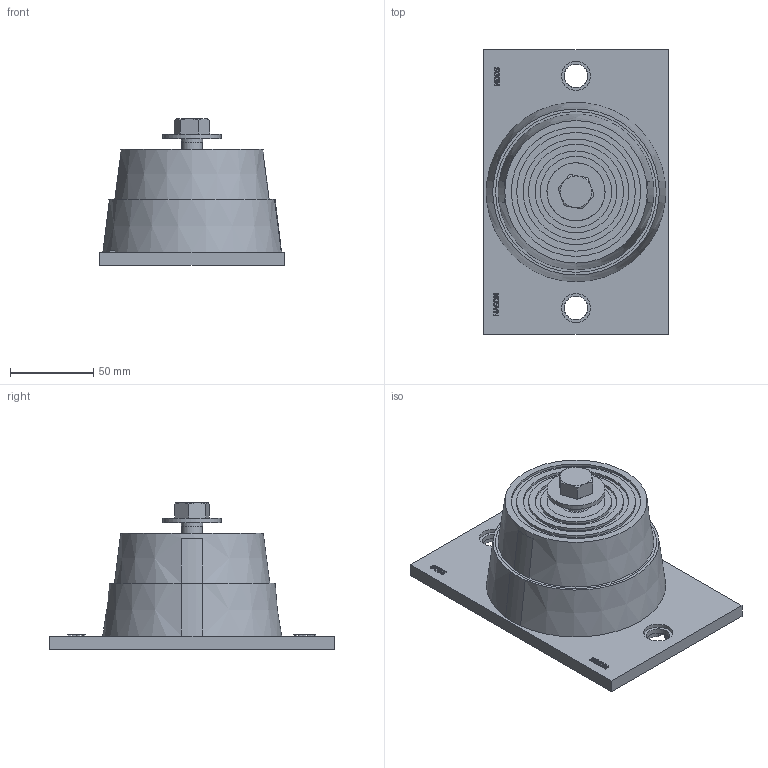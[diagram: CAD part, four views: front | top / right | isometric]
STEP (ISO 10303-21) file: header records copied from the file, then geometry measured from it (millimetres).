
FILE_DESCRIPTION((''),'2;1');
FILE_NAME('C:\2012_Work\Designs\ND\ND-DS\A-26350-1 ND-DS_YELLOW.stp','2013-09-11T11:13:39',('KShiels'),(''),'Autodesk Inventor 2012','Autodesk Inventor 2012','');
FILE_SCHEMA(('AUTOMOTIVE_DESIGN { 1 0 10303 214 1 1 1 1 }'));
Length unit declared in the file: inch
Products named in the file (7): A-26350-1 ND-DS_YELLOW; A-26350-1_ND-DS_RUBBER; A-26350-1_ND-DS_UPPER-WASHER; A-26350-1_ND-DS_BASE-PLATE; A-26350-1_ND-DS_LOWER-WASHER; ANSI B18.22.1 - 1_2 - wide - Type A-NDDS; ANSI_ASME B18.2.1 - 1_2-13 UNC - 1(2)-NDDS
Assembly tree (6 placements, depth 2):
  A-26350-1 ND-DS_YELLOW
    A-26350-1_ND-DS_RUBBER
    A-26350-1_ND-DS_UPPER-WASHER
    A-26350-1_ND-DS_BASE-PLATE
    A-26350-1_ND-DS_LOWER-WASHER
    ANSI B18.22.1 - 1_2 - wide - Type A-NDDS
    ANSI_ASME B18.2.1 - 1_2-13 UNC - 1(2)-NDDS
Bounding box: 111.12 x 171.45 x 88.21 mm (x, y, z)
Volume: 573436.8 mm3; surface area: 189767.1 mm2
Topology: 6 solids, 6 shells, 392 faces, 1003 edges, 668 vertices
Faces by surface type: plane 285, bspline 62, cylinder 28, cone 16, torus 1
Full cylindrical faces by diameter (mm): 12.7 x2, 14.275 x1, 14.288 x4, 17.463 x2, 19.05 x2, 28.575 x2, 31.75 x1, 33.338 x1, 34.925 x2, 42.863 x1, 49.213 x1, 49.63 x1, 57.15 x1, 63.5 x1, 71.438 x1, 76.2 x2, 77.788 x1, 96.838 x2
Entity records: 12088 total; most frequent: CARTESIAN_POINT 2865, ORIENTED_EDGE 1916, DIRECTION 1622, EDGE_CURVE 958, VECTOR 692, LINE 692, VERTEX_POINT 656, EDGE_LOOP 492
